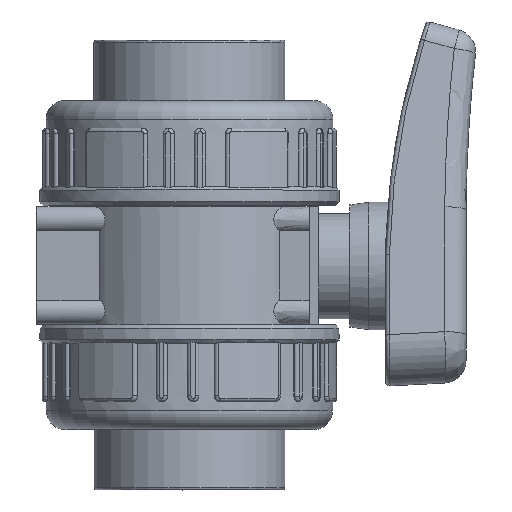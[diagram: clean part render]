
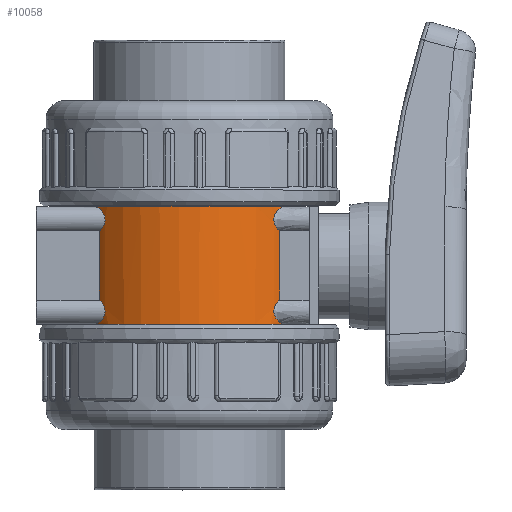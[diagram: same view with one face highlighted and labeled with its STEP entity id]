
A CAD part, top view. The second image highlights one B-rep face of the part: STEP entity #10058.
In plain terms, the highlighted cylindrical face has radius 31.85 mm (diameter 63.7 mm), a partial arc.
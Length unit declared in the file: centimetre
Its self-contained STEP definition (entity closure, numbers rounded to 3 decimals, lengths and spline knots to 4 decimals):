
#273=LINE('',#14366,#841);
#274=LINE('',#14401,#842);
#841=VECTOR('',#11742,1.8492);
#842=VECTOR('',#11743,1.8492);
#1398=B_SPLINE_CURVE_WITH_KNOTS('',3,(#14327,#14328,#14329,#14330,#14331,
#14332,#14333,#14334,#14335,#14336,#14337,#14338,#14339,#14340,#14341,#14342,
#14343,#14344),.UNSPECIFIED.,.F.,.F.,(4,2,2,2,2,2,2,2,4),(0.,0.1819,
0.3181,0.4314,0.5401,0.6602,
0.8152,0.9729,1.1275),.UNSPECIFIED.);
#1399=B_SPLINE_CURVE_WITH_KNOTS('',3,(#14348,#14349,#14350,#14351,#14352,
#14353,#14354,#14355,#14356,#14357,#14358,#14359,#14360,#14361,#14362,#14363,
#14364),.UNSPECIFIED.,.F.,.F.,(4,2,2,2,3,2,2,4),(-0.6129,-0.4387,
-0.2646,-0.1323,0.,0.1323,0.2646,
0.3797),.UNSPECIFIED.);
#1400=B_SPLINE_CURVE_WITH_KNOTS('',3,(#14367,#14368,#14369,#14370,#14371,
#14372,#14373,#14374,#14375,#14376,#14377,#14378,#14379,#14380,#14381,#14382,
#14383),.UNSPECIFIED.,.F.,.F.,(4,2,2,3,2,2,2,4),(-0.3797,-0.2646,
-0.1323,0.,0.1323,0.2646,0.4387,
0.5566),.UNSPECIFIED.);
#1401=B_SPLINE_CURVE_WITH_KNOTS('',3,(#14385,#14386,#14387,#14388,#14389,
#14390,#14391,#14392,#14393,#14394,#14395,#14396,#14397,#14398,#14399,#14400),
 .UNSPECIFIED.,.F.,.F.,(4,2,2,2,2,2,2,4),(0.,0.216,0.3891,
0.5215,0.6338,0.7432,0.8674,
1.0472),.UNSPECIFIED.);
#1754=CYLINDRICAL_SURFACE('',#10689,3.185);
#2051=FACE_OUTER_BOUND('',#2672,.T.);
#2672=EDGE_LOOP('',(#6326,#6327,#6328,#6329,#6330,#6331,#6332,#6333));
#3357=CIRCLE('',#10686,3.185);
#3359=CIRCLE('',#10690,3.185);
#3881=VERTEX_POINT('',#14297);
#3882=VERTEX_POINT('',#14299);
#3893=VERTEX_POINT('',#14325);
#3894=VERTEX_POINT('',#14326);
#3895=VERTEX_POINT('',#14345);
#3896=VERTEX_POINT('',#14347);
#3897=VERTEX_POINT('',#14365);
#3898=VERTEX_POINT('',#14384);
#4829=EDGE_CURVE('',#3881,#3882,#3357,.T.);
#4842=EDGE_CURVE('',#3893,#3894,#1398,.T.);
#4843=EDGE_CURVE('',#3894,#3895,#3359,.T.);
#4844=EDGE_CURVE('',#3895,#3896,#1399,.T.);
#4845=EDGE_CURVE('',#3896,#3897,#273,.T.);
#4846=EDGE_CURVE('',#3897,#3882,#1400,.T.);
#4847=EDGE_CURVE('',#3881,#3898,#1401,.T.);
#4848=EDGE_CURVE('',#3898,#3893,#274,.T.);
#6326=ORIENTED_EDGE('',*,*,#4842,.T.);
#6327=ORIENTED_EDGE('',*,*,#4843,.T.);
#6328=ORIENTED_EDGE('',*,*,#4844,.T.);
#6329=ORIENTED_EDGE('',*,*,#4845,.T.);
#6330=ORIENTED_EDGE('',*,*,#4846,.T.);
#6331=ORIENTED_EDGE('',*,*,#4829,.F.);
#6332=ORIENTED_EDGE('',*,*,#4847,.T.);
#6333=ORIENTED_EDGE('',*,*,#4848,.T.);
#10058=ADVANCED_FACE('',(#2051),#1754,.T.);
#10686=AXIS2_PLACEMENT_3D('',#14300,#11721,#11722);
#10689=AXIS2_PLACEMENT_3D('',#14324,#11738,#11739);
#10690=AXIS2_PLACEMENT_3D('',#14346,#11740,#11741);
#11721=DIRECTION('center_axis',(0.,-1.,0.));
#11722=DIRECTION('ref_axis',(1.,0.,0.));
#11738=DIRECTION('center_axis',(0.,-1.,0.));
#11739=DIRECTION('ref_axis',(-1.,0.,0.));
#11740=DIRECTION('center_axis',(0.,-1.,0.));
#11741=DIRECTION('ref_axis',(1.,0.,0.));
#11742=DIRECTION('',(0.,-1.,0.));
#11743=DIRECTION('',(0.,1.,0.));
#14297=CARTESIAN_POINT('',(2.5216,-1.58,1.9457));
#14299=CARTESIAN_POINT('',(-2.5216,-1.58,1.9457));
#14300=CARTESIAN_POINT('Origin',(0.,-1.58,0.));
#14324=CARTESIAN_POINT('Origin',(0.,-0.01,
0.));
#14325=CARTESIAN_POINT('',(2.4074,0.9131,2.0853));
#14326=CARTESIAN_POINT('',(2.5562,1.56,1.9));
#14327=CARTESIAN_POINT('Ctrl Pts',(2.4074,0.9131,2.0853));
#14328=CARTESIAN_POINT('Ctrl Pts',(2.3715,0.939,2.1268));
#14329=CARTESIAN_POINT('Ctrl Pts',(2.3389,0.9731,2.1622));
#14330=CARTESIAN_POINT('Ctrl Pts',(2.2937,1.0434,2.2099));
#14331=CARTESIAN_POINT('Ctrl Pts',(2.2775,1.0779,2.2266));
#14332=CARTESIAN_POINT('Ctrl Pts',(2.2582,1.1481,2.2461));
#14333=CARTESIAN_POINT('Ctrl Pts',(2.2538,1.1815,2.2505));
#14334=CARTESIAN_POINT('Ctrl Pts',(2.2548,1.2485,2.2494));
#14335=CARTESIAN_POINT('Ctrl Pts',(2.26,1.2804,2.2443));
#14336=CARTESIAN_POINT('Ctrl Pts',(2.2788,1.3441,2.2252));
#14337=CARTESIAN_POINT('Ctrl Pts',(2.2931,1.3745,2.2106));
#14338=CARTESIAN_POINT('Ctrl Pts',(2.3314,1.4363,2.1702));
#14339=CARTESIAN_POINT('Ctrl Pts',(2.3572,1.4655,2.1423));
#14340=CARTESIAN_POINT('Ctrl Pts',(2.4119,1.5123,2.0806));
#14341=CARTESIAN_POINT('Ctrl Pts',(2.4412,1.5303,2.0462));
#14342=CARTESIAN_POINT('Ctrl Pts',(2.4992,1.5539,1.9749));
#14343=CARTESIAN_POINT('Ctrl Pts',(2.5282,1.56,1.9377));
#14344=CARTESIAN_POINT('Ctrl Pts',(2.5562,1.56,1.9));
#14345=CARTESIAN_POINT('',(-2.5562,1.56,1.9));
#14346=CARTESIAN_POINT('Origin',(0.,1.56,0.));
#14347=CARTESIAN_POINT('',(-2.4074,0.9131,2.0853));
#14348=CARTESIAN_POINT('Ctrl Pts',(-2.5562,1.56,1.9));
#14349=CARTESIAN_POINT('Ctrl Pts',(-2.5216,1.56,1.9466));
#14350=CARTESIAN_POINT('Ctrl Pts',(-2.4829,1.5503,1.9957));
#14351=CARTESIAN_POINT('Ctrl Pts',(-2.4075,1.5105,2.0861));
#14352=CARTESIAN_POINT('Ctrl Pts',(-2.3707,1.4806,2.1274));
#14353=CARTESIAN_POINT('Ctrl Pts',(-2.3171,1.4159,2.1855));
#14354=CARTESIAN_POINT('Ctrl Pts',(-2.2947,1.3803,2.2089));
#14355=CARTESIAN_POINT('Ctrl Pts',(-2.2632,1.2994,2.2412));
#14356=CARTESIAN_POINT('Ctrl Pts',(-2.2543,1.2541,2.25));
#14357=CARTESIAN_POINT('Ctrl Pts',(-2.2543,1.21,2.25));
#14358=CARTESIAN_POINT('Ctrl Pts',(-2.2543,1.1659,2.25));
#14359=CARTESIAN_POINT('Ctrl Pts',(-2.2632,1.1206,2.2412));
#14360=CARTESIAN_POINT('Ctrl Pts',(-2.2947,1.0397,2.2089));
#14361=CARTESIAN_POINT('Ctrl Pts',(-2.3171,1.0041,2.1855));
#14362=CARTESIAN_POINT('Ctrl Pts',(-2.3604,0.9518,
2.1386));
#14363=CARTESIAN_POINT('Ctrl Pts',(-2.3833,0.9305,
2.1131));
#14364=CARTESIAN_POINT('Ctrl Pts',(-2.4074,0.9131,
2.0853));
#14365=CARTESIAN_POINT('',(-2.4074,-0.9361,2.0853));
#14366=CARTESIAN_POINT('',(-2.4074,-0.01,2.0853));
#14367=CARTESIAN_POINT('Ctrl Pts',(-2.4074,-0.9361,
2.0853));
#14368=CARTESIAN_POINT('Ctrl Pts',(-2.3833,-0.9535,
2.1131));
#14369=CARTESIAN_POINT('Ctrl Pts',(-2.3604,-0.9748,
2.1386));
#14370=CARTESIAN_POINT('Ctrl Pts',(-2.3171,-1.0271,
2.1855));
#14371=CARTESIAN_POINT('Ctrl Pts',(-2.2947,-1.0627,2.2089));
#14372=CARTESIAN_POINT('Ctrl Pts',(-2.2632,-1.1436,
2.2412));
#14373=CARTESIAN_POINT('Ctrl Pts',(-2.2543,-1.1889,
2.25));
#14374=CARTESIAN_POINT('Ctrl Pts',(-2.2543,-1.233,2.25));
#14375=CARTESIAN_POINT('Ctrl Pts',(-2.2543,-1.2771,
2.25));
#14376=CARTESIAN_POINT('Ctrl Pts',(-2.2632,-1.3224,
2.2412));
#14377=CARTESIAN_POINT('Ctrl Pts',(-2.2947,-1.4033,2.2089));
#14378=CARTESIAN_POINT('Ctrl Pts',(-2.3171,-1.4389,
2.1855));
#14379=CARTESIAN_POINT('Ctrl Pts',(-2.3707,-1.5036,
2.1274));
#14380=CARTESIAN_POINT('Ctrl Pts',(-2.4075,-1.5335,
2.0861));
#14381=CARTESIAN_POINT('Ctrl Pts',(-2.4708,-1.5669,
2.0103));
#14382=CARTESIAN_POINT('Ctrl Pts',(-2.4967,-1.5758,
1.9779));
#14383=CARTESIAN_POINT('Ctrl Pts',(-2.5216,-1.58,1.9457));
#14384=CARTESIAN_POINT('',(2.4074,-0.9361,2.0853));
#14385=CARTESIAN_POINT('Ctrl Pts',(2.5216,-1.58,1.9457));
#14386=CARTESIAN_POINT('Ctrl Pts',(2.4778,-1.5725,2.0024));
#14387=CARTESIAN_POINT('Ctrl Pts',(2.4325,-1.5512,2.057));
#14388=CARTESIAN_POINT('Ctrl Pts',(2.3574,-1.4899,2.1422));
#14389=CARTESIAN_POINT('Ctrl Pts',(2.3276,-1.4554,2.1743));
#14390=CARTESIAN_POINT('Ctrl Pts',(2.2866,-1.3851,2.2173));
#14391=CARTESIAN_POINT('Ctrl Pts',(2.2722,-1.3505,2.232));
#14392=CARTESIAN_POINT('Ctrl Pts',(2.256,-1.2806,2.2483));
#14393=CARTESIAN_POINT('Ctrl Pts',(2.2529,-1.2473,2.2513));
#14394=CARTESIAN_POINT('Ctrl Pts',(2.2566,-1.1809,2.2477));
#14395=CARTESIAN_POINT('Ctrl Pts',(2.263,-1.1493,2.2413));
#14396=CARTESIAN_POINT('Ctrl Pts',(2.2843,-1.086,2.2196));
#14397=CARTESIAN_POINT('Ctrl Pts',(2.2999,-1.0556,2.2035));
#14398=CARTESIAN_POINT('Ctrl Pts',(2.344,-0.9903,
2.1567));
#14399=CARTESIAN_POINT('Ctrl Pts',(2.3752,-0.9593,2.1225));
#14400=CARTESIAN_POINT('Ctrl Pts',(2.4074,-0.9361,
2.0853));
#14401=CARTESIAN_POINT('',(2.4074,-0.01,2.0853));
